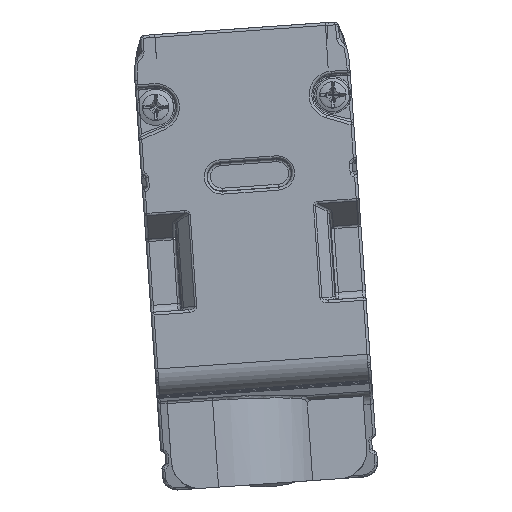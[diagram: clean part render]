
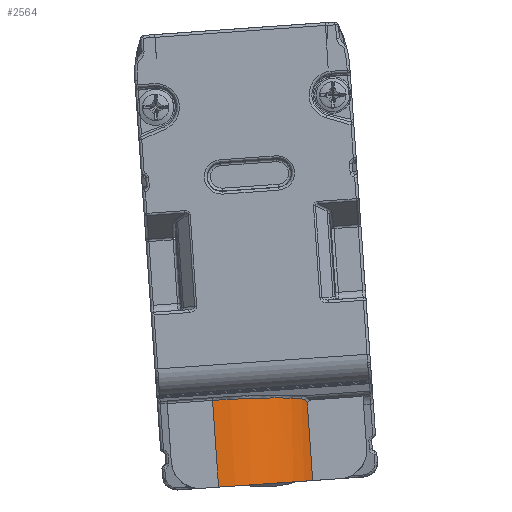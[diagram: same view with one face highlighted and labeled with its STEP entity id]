
A CAD part, front view. The second image highlights one B-rep face of the part: STEP entity #2564.
In plain terms, the highlighted cylindrical face has radius 7.5 mm (diameter 15 mm), a partial arc.
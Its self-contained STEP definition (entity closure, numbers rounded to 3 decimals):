
#1137=B_SPLINE_CURVE_WITH_KNOTS('',3,(#43038,#43039,#43040,#43041,#43042,
#43043,#43044),.UNSPECIFIED.,.F.,.F.,(4,3,4),(0.,0.485,1.),.UNSPECIFIED.);
#1534=ELLIPSE('',#23104,7.53,7.5);
#2564=ADVANCED_FACE('',(#3946),#3044,.T.);
#3044=CYLINDRICAL_SURFACE('',#23106,7.5);
#3946=FACE_OUTER_BOUND('',#5024,.T.);
#5024=EDGE_LOOP('',(#13131,#13132,#13133,#13134,#13135));
#6569=LINE('',#43035,#8091);
#6570=LINE('',#43048,#8092);
#8091=VECTOR('',#28983,1.);
#8092=VECTOR('',#28986,1.);
#13131=ORIENTED_EDGE('',*,*,#19146,.T.);
#13132=ORIENTED_EDGE('',*,*,#19147,.T.);
#13133=ORIENTED_EDGE('',*,*,#19148,.T.);
#13134=ORIENTED_EDGE('',*,*,#19149,.T.);
#13135=ORIENTED_EDGE('',*,*,#19150,.F.);
#15893=VERTEX_POINT('',#43036);
#15894=VERTEX_POINT('',#43037);
#15895=VERTEX_POINT('',#43045);
#15896=VERTEX_POINT('',#43047);
#15897=VERTEX_POINT('',#43049);
#19146=EDGE_CURVE('',#15893,#15894,#6569,.T.);
#19147=EDGE_CURVE('',#15894,#15895,#1137,.T.);
#19148=EDGE_CURVE('',#15895,#15896,#1534,.T.);
#19149=EDGE_CURVE('',#15896,#15897,#6570,.T.);
#19150=EDGE_CURVE('',#15893,#15897,#20735,.T.);
#20735=CIRCLE('',#23105,7.5);
#23104=AXIS2_PLACEMENT_3D('',#43046,#28984,#28985);
#23105=AXIS2_PLACEMENT_3D('',#43050,#28987,#28988);
#23106=AXIS2_PLACEMENT_3D('',#43051,#28989,#28990);
#28983=DIRECTION('',(-0.07,0.,0.998));
#28984=DIRECTION('',(0.069,-0.089,-0.994));
#28985=DIRECTION('',(0.006,0.996,-0.089));
#28986=DIRECTION('',(0.07,0.,-0.998));
#28987=DIRECTION('',(0.07,0.,-0.998));
#28988=DIRECTION('',(0.998,0.,0.07));
#28989=DIRECTION('',(0.07,0.,-0.998));
#28990=DIRECTION('',(0.,-1.,0.));
#43035=CARTESIAN_POINT('',(-40.701,-560.597,14.888));
#43036=CARTESIAN_POINT('',(-40.701,-560.597,14.888));
#43037=CARTESIAN_POINT('',(-41.088,-560.597,20.435));
#43038=CARTESIAN_POINT('',(-41.088,-560.597,20.435));
#43039=CARTESIAN_POINT('',(-41.139,-560.686,20.528));
#43040=CARTESIAN_POINT('',(-41.198,-560.793,20.603));
#43041=CARTESIAN_POINT('',(-41.263,-560.905,20.654));
#43042=CARTESIAN_POINT('',(-41.332,-561.024,20.708));
#43043=CARTESIAN_POINT('',(-41.408,-561.152,20.738));
#43044=CARTESIAN_POINT('',(-41.487,-561.278,20.743));
#43045=CARTESIAN_POINT('',(-41.487,-561.278,20.743));
#43046=CARTESIAN_POINT('',(-47.816,-557.318,19.944));
#43047=CARTESIAN_POINT('',(-47.863,-564.818,20.616));
#43048=CARTESIAN_POINT('',(-47.667,-564.818,17.815));
#43049=CARTESIAN_POINT('',(-47.43,-564.818,14.418));
#43050=CARTESIAN_POINT('',(-47.43,-557.318,14.418));
#43051=CARTESIAN_POINT('',(-52.434,-557.318,85.982));
